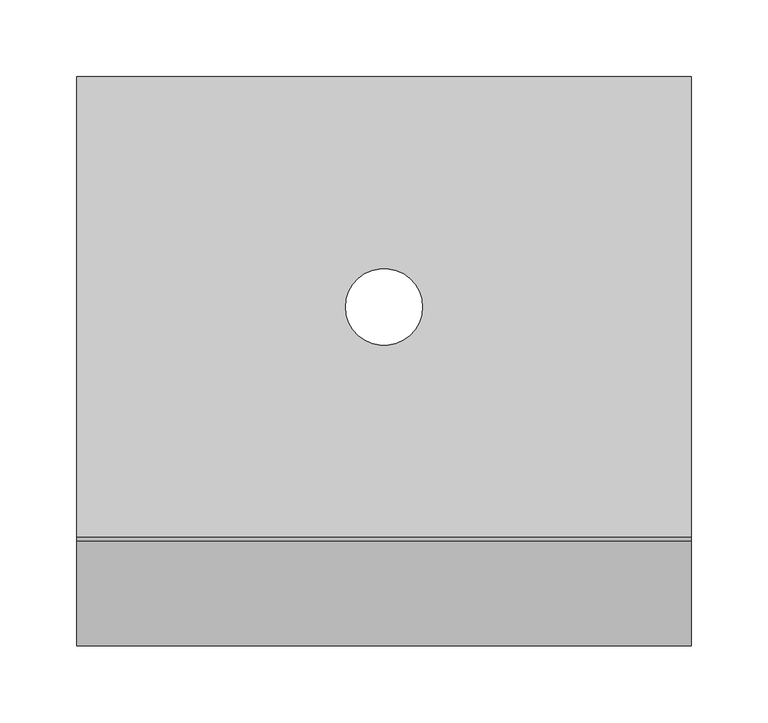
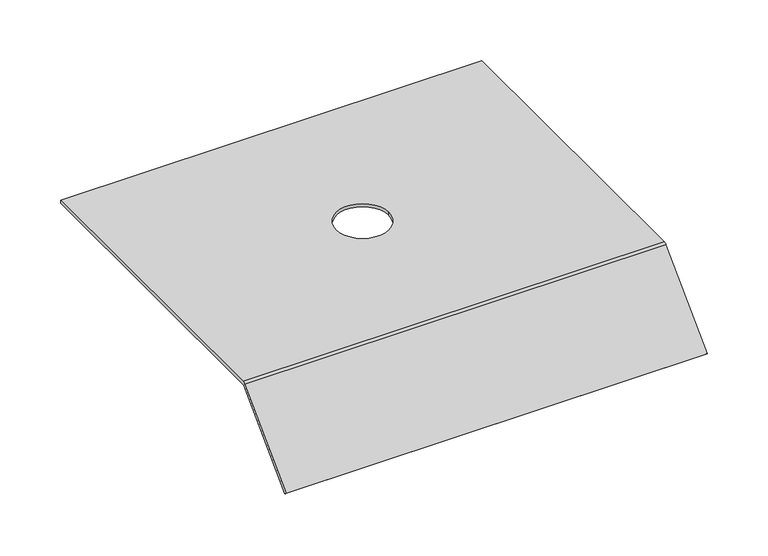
"""IFC4 building model written with IfcOpenShell, lengths in millimetres: proxy geometry, Electrical_Installation_Hager_Covers-With-Installation-Opening-GBZ : Electrical_Installation_Hager_Covers-With-Installation-Opening-GBZ."""

from ifc_helpers import new_model, si_unit, frame, origin, place, context, project, spatial, polyline, circle_curve, source, transform, mapped, element, save
from ifc_brep_helpers import plane_surface, cylinder_surface, revolved_surface, advanced_brep


def electrical_fixtures_64d9bd68(model_context):
    return source(origin(), model_context, "Body", "AdvancedBrep", [
        advanced_brep(
        [(0.0, 150.0, 40.5), (0.0, 150.0, 37.5), (0.0, -149.8229541, 37.5), (0.0, -150.8322972, 37.0819164), (0.0, -218.712807, -30.7985934), (0.0, -220.8341273, -28.6772731), (0.0, -152.8206472, 39.336207), (0.0, -150.0110025, 40.5), (400.0, 150.0, 40.5), (400.0, -150.0110025, 40.5), (400.0, -152.8206472, 39.336207), (400.0, -220.8341273, -28.6772731), (400.0, -218.712807, -30.7985934), (400.0, -150.8322972, 37.0819164), (400.0, -149.8229541, 37.5), (400.0, 150.0, 37.5), (175.0, 0.0, 37.5), (225.0, 0.0, 37.5), (225.0, 0.0, 40.5), (175.0, 0.0, 40.5)],
        [
            (0, 1),
            (1, 2),
            (2, 3, circle_curve(frame((0.0, -149.8229541, 36.0725733), z_axis=(1.0, 0.0, 0.0), x_axis=(0.0, 1.0, 0.0)), 1.4274267)),
            (3, 4),
            (4, 5),
            (5, 6),
            (6, 7, circle_curve(frame((0.0, -150.0110025, 36.5265623), z_axis=(-1.0, 0.0, 0.0), x_axis=(0.0, 1.0, 0.0)), 3.9734377)),
            (7, 0),
            (8, 9),
            (9, 10, circle_curve(frame((400.0, -150.0110025, 36.5265623), z_axis=(1.0, 0.0, 0.0), x_axis=(0.0, 1.0, 0.0)), 3.9734377)),
            (10, 11),
            (11, 12),
            (12, 13),
            (13, 14, circle_curve(frame((400.0, -149.8229541, 36.0725733), z_axis=(-1.0, 0.0, 0.0), x_axis=(0.0, 1.0, 0.0)), 1.4274267)),
            (14, 15),
            (15, 8),
            (0, 8),
            (15, 1),
            (14, 2),
            (16, 17, circle_curve(frame((200.0, 0.0, 37.5), z_axis=(0.0, 0.0, 1.0), x_axis=(1.0, 0.0, 0.0)), 25.0)),
            (17, 16, circle_curve(frame((200.0, 0.0, 37.5), z_axis=(0.0, 0.0, 1.0), x_axis=(1.0, 0.0, 0.0)), 25.0)),
            (13, 3),
            (12, 4),
            (11, 5),
            (10, 6),
            (9, 7),
            (18, 19, circle_curve(frame((200.0, 0.0, 40.5), z_axis=(0.0, 0.0, -1.0), x_axis=(1.0, 0.0, 0.0)), 25.0)),
            (19, 18, circle_curve(frame((200.0, 0.0, 40.5), z_axis=(0.0, 0.0, -1.0), x_axis=(1.0, 0.0, 0.0)), 25.0)),
            (16, 19),
            (18, 17),
        ],
        [
            plane_surface(frame((0.0, 0.3269864, 15.0), z_axis=(-1.0, 0.0, 0.0), x_axis=(0.0, 0.0, 1.0))),
            plane_surface(frame((400.0, 0.3269864, 15.0), z_axis=(1.0, 0.0, 0.0), x_axis=(0.0, 0.0, 1.0))),
            plane_surface(frame((0.0, 150.0, 40.5), z_axis=(0.0, 1.0, 0.0), x_axis=(1.0, 0.0, 0.0))),
            plane_surface(frame((0.0, 150.0, 37.5), z_axis=(0.0, 0.0, -1.0), x_axis=(1.0, 0.0, 0.0))),
            revolved_surface(polyline([(400.0, -148.3955274, 36.0725733), (0.0, -148.3955274, 36.0725733)]), (0.0, -149.8229541, 36.0725733), (1.0, 0.0, 0.0)),
            plane_surface(frame((0.0, -150.8322972, 37.0819164), z_axis=(0.0, 0.7071067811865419, -0.7071067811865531), x_axis=(1.0, 0.0, 0.0))),
            plane_surface(frame((0.0, -218.712807, -30.7985934), z_axis=(0.0, -0.7071067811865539, -0.7071067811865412), x_axis=(1.0, 0.0, 0.0))),
            plane_surface(frame((0.0, -220.8341273, -28.6772731), z_axis=(0.0, -0.7071067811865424, 0.7071067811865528), x_axis=(1.0, 0.0, 0.0))),
            cylinder_surface(frame((0.0, -150.0110025, 36.5265623), z_axis=(-1.0, 0.0, 0.0), x_axis=(0.0, 1.0, 0.0)), 3.9734377),
            plane_surface(frame((0.0, -150.0110025, 40.5), z_axis=(0.0, 0.0, 1.0), x_axis=(1.0, 0.0, 0.0))),
            revolved_surface(polyline([(225.0, 0.0, 40.5), (225.0, 0.0, 37.5)]), (200.0, 0.0, 0.0), (0.0, 0.0, 1.0)),
        ],
        [
            (0, [[1, 2, 3, 4, 5, 6, 7, 8]]),
            (1, [[9, 10, 11, 12, 13, 14, 15, 16]]),
            (2, [[-1, 17, -16, 18]]),
            (3, [[-2, -18, -15, 19], [20, 21]]),
            (4, [[-3, -19, -14, 22]]),
            (5, [[-4, -22, -13, 23]]),
            (6, [[-5, -23, -12, 24]]),
            (7, [[-6, -24, -11, 25]]),
            (8, [[-7, -25, -10, 26]]),
            (9, [[-8, -26, -9, -17], [27, 28]]),
            (10, [[29, -27, 30, -20]]),
            (10, [[-29, -21, -30, -28]]),
        ],
    ),
    ])


if __name__ == "__main__":
    model = new_model("IFC4")
    model_context = context("Model", 3, world=origin())
    ifc_project = project(units=[si_unit("LENGTHUNIT", "METRE", prefix="MILLI")], contexts=[model_context])
    site = spatial("IfcSite", under=ifc_project)
    building = spatial("IfcBuilding", under=site)
    placement = place(None, origin())
    electrical_fixtures_shape = electrical_fixtures_64d9bd68(model_context)
    element("IfcBuildingElementProxy", 1, Name="Electrical_Installation_Hager_Covers-With-Installation-Opening-GBZ : Electrical_Installation_Hager_Covers-With-Installation-Opening-GBZ", ObjectType="Electrical_Installation_Hager_Covers-With-Installation-Opening-GBZ : Electrical_Installation_Hager_Covers-With-Installation-Opening-GBZ", at=placement, inside=building, context=model_context, shape_type="MappedRepresentation", body=[
        mapped(electrical_fixtures_shape, transform((0.0, 0.0, 0.0), x_axis=(1.0, 0.0, 0.0), y_axis=(0.0, 1.0, 0.0), z_axis=(0.0, 0.0, 1.0))),
    ])
    save(model, "model.ifc")
